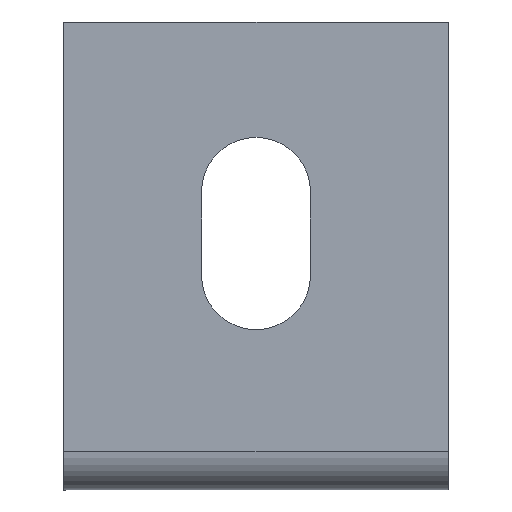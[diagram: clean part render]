
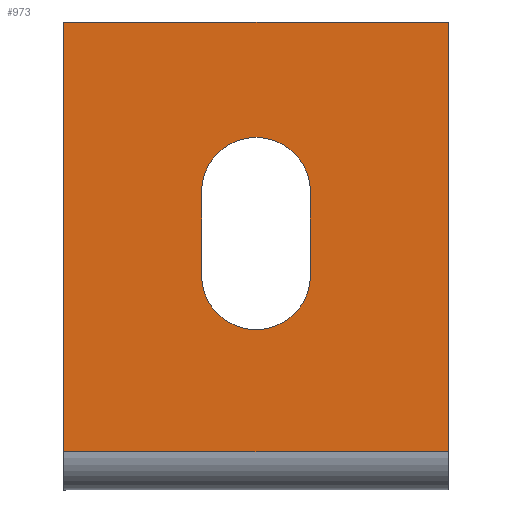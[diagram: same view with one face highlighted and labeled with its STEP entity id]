
A CAD part, front view. The second image highlights one B-rep face of the part: STEP entity #973.
In plain terms, the highlighted planar face has unit normal (0, -1, 0) as drawn and (0, 0, -1) by its records, which use the part's own axes.
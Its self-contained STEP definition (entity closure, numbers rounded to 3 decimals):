
#8 = EDGE_CURVE ( 'NONE', #1684, #1599, #2068, .T. ) ;
#22 = ORIENTED_EDGE ( 'NONE', *, *, #461, .T. ) ;
#35 = DIRECTION ( 'NONE',  ( -1., 0., 0. ) ) ;
#56 = DIRECTION ( 'NONE',  ( 0., 0., 1. ) ) ;
#69 = VERTEX_POINT ( 'NONE', #2066 ) ;
#132 = LINE ( 'NONE', #917, #199 ) ;
#138 = CARTESIAN_POINT ( 'NONE',  ( 21.5, 46.5, 0. ) ) ;
#139 = CARTESIAN_POINT ( 'NONE',  ( 60., 73., 0. ) ) ;
#152 = CARTESIAN_POINT ( 'NONE',  ( 30., 33.5, 0. ) ) ;
#199 = VECTOR ( 'NONE', #2088, 1000. ) ;
#247 = VERTEX_POINT ( 'NONE', #1915 ) ;
#295 = ORIENTED_EDGE ( 'NONE', *, *, #1344, .T. ) ;
#335 = EDGE_CURVE ( 'NONE', #1297, #247, #132, .T. ) ;
#418 = LINE ( 'NONE', #1462, #567 ) ;
#461 = EDGE_CURVE ( 'NONE', #551, #1297, #1863, .T. ) ;
#499 = ORIENTED_EDGE ( 'NONE', *, *, #1219, .F. ) ;
#527 = DIRECTION ( 'NONE',  ( 0., -1., 0. ) ) ;
#540 = VECTOR ( 'NONE', #2036, 1000. ) ;
#551 = VERTEX_POINT ( 'NONE', #1435 ) ;
#561 = CARTESIAN_POINT ( 'NONE',  ( 0., 73., 0. ) ) ;
#567 = VECTOR ( 'NONE', #1483, 1000. ) ;
#608 = ORIENTED_EDGE ( 'NONE', *, *, #335, .T. ) ;
#633 = EDGE_LOOP ( 'NONE', ( #1978, #1903, #499, #1094 ) ) ;
#638 = DIRECTION ( 'NONE',  ( -1., 0., 0. ) ) ;
#675 = AXIS2_PLACEMENT_3D ( 'NONE', #152, #1641, #638 ) ;
#699 = CARTESIAN_POINT ( 'NONE',  ( 60., 6., 0. ) ) ;
#707 = CARTESIAN_POINT ( 'NONE',  ( 0., 0., 0. ) ) ;
#742 = VECTOR ( 'NONE', #35, 1000. ) ;
#752 = CIRCLE ( 'NONE', #1552, 8.5 ) ;
#755 = EDGE_CURVE ( 'NONE', #1599, #69, #1746, .T. ) ;
#763 = EDGE_CURVE ( 'NONE', #247, #866, #752, .T. ) ;
#795 = EDGE_LOOP ( 'NONE', ( #295, #22, #608, #837 ) ) ;
#837 = ORIENTED_EDGE ( 'NONE', *, *, #763, .T. ) ;
#838 = CARTESIAN_POINT ( 'NONE',  ( 21.5, 46.5, 0. ) ) ;
#855 = VECTOR ( 'NONE', #527, 1000. ) ;
#866 = VERTEX_POINT ( 'NONE', #138 ) ;
#917 = CARTESIAN_POINT ( 'NONE',  ( 38.5, 33.5, 0. ) ) ;
#968 = LINE ( 'NONE', #1526, #540 ) ;
#970 = LINE ( 'NONE', #838, #1866 ) ;
#973 = ADVANCED_FACE ( 'NONE', ( #1897, #1417 ), #1335, .F. ) ;
#1001 = DIRECTION ( 'NONE',  ( 0., -1., 0. ) ) ;
#1003 = DIRECTION ( 'NONE',  ( -1., 0., 0. ) ) ;
#1004 = DIRECTION ( 'NONE',  ( 1., 0., 0. ) ) ;
#1094 = ORIENTED_EDGE ( 'NONE', *, *, #2034, .F. ) ;
#1206 = AXIS2_PLACEMENT_3D ( 'NONE', #1350, #56, #1004 ) ;
#1219 = EDGE_CURVE ( 'NONE', #1375, #1684, #418, .T. ) ;
#1297 = VERTEX_POINT ( 'NONE', #1956 ) ;
#1335 = PLANE ( 'NONE',  #1206 ) ;
#1344 = EDGE_CURVE ( 'NONE', #866, #551, #970, .T. ) ;
#1350 = CARTESIAN_POINT ( 'NONE',  ( 30., 36.5, 0. ) ) ;
#1375 = VERTEX_POINT ( 'NONE', #699 ) ;
#1417 = FACE_OUTER_BOUND ( 'NONE', #633, .T. ) ;
#1435 = CARTESIAN_POINT ( 'NONE',  ( 21.5, 33.5, 0. ) ) ;
#1462 = CARTESIAN_POINT ( 'NONE',  ( 60., 73., 0. ) ) ;
#1466 = CARTESIAN_POINT ( 'NONE',  ( 0., 73., 0. ) ) ;
#1483 = DIRECTION ( 'NONE',  ( 0., 1., 0. ) ) ;
#1526 = CARTESIAN_POINT ( 'NONE',  ( 0., 6., 0. ) ) ;
#1552 = AXIS2_PLACEMENT_3D ( 'NONE', #1694, #1858, #1003 ) ;
#1599 = VERTEX_POINT ( 'NONE', #561 ) ;
#1641 = DIRECTION ( 'NONE',  ( 0., 0., 1. ) ) ;
#1684 = VERTEX_POINT ( 'NONE', #139 ) ;
#1694 = CARTESIAN_POINT ( 'NONE',  ( 30., 46.5, 0. ) ) ;
#1746 = LINE ( 'NONE', #707, #855 ) ;
#1858 = DIRECTION ( 'NONE',  ( 0., 0., 1. ) ) ;
#1863 = CIRCLE ( 'NONE', #675, 8.5 ) ;
#1866 = VECTOR ( 'NONE', #1001, 1000. ) ;
#1897 = FACE_BOUND ( 'NONE', #795, .T. ) ;
#1903 = ORIENTED_EDGE ( 'NONE', *, *, #8, .F. ) ;
#1915 = CARTESIAN_POINT ( 'NONE',  ( 38.5, 46.5, 0. ) ) ;
#1956 = CARTESIAN_POINT ( 'NONE',  ( 38.5, 33.5, 0. ) ) ;
#1978 = ORIENTED_EDGE ( 'NONE', *, *, #755, .F. ) ;
#2034 = EDGE_CURVE ( 'NONE', #69, #1375, #968, .T. ) ;
#2036 = DIRECTION ( 'NONE',  ( 1., 0., 0. ) ) ;
#2066 = CARTESIAN_POINT ( 'NONE',  ( 0., 6., 0. ) ) ;
#2068 = LINE ( 'NONE', #1466, #742 ) ;
#2088 = DIRECTION ( 'NONE',  ( 0., 1., 0. ) ) ;
